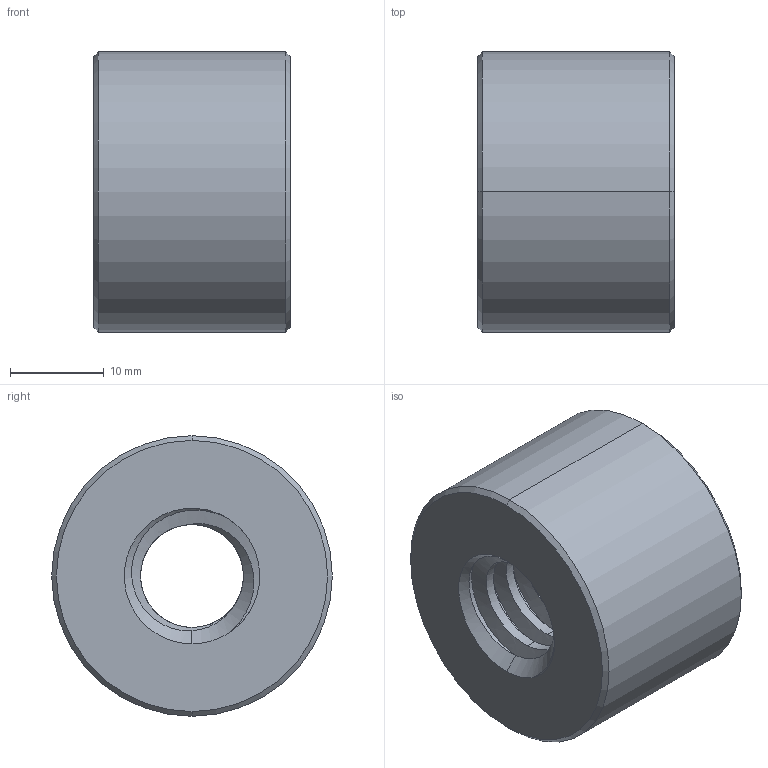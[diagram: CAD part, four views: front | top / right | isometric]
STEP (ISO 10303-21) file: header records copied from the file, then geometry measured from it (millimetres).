
FILE_DESCRIPTION((''),'2;1');
FILE_NAME('716-014-1100_PRT','2024-03-23T',('Brieden'),('ib-brieden'),'PRO/ENGINEER BY PARAMETRIC TECHNOLOGY CORPORATION, 2010160','PRO/ENGINEER BY PARAMETRIC TECHNOLOGY CORPORATION, 2010160','');
FILE_SCHEMA(('AUTOMOTIVE_DESIGN { 1 0 10303 214 1 1 1 1 }'));
Length unit declared in the file: millimetre
Products named in the file (1): 716-014-1100_PRT
Bounding box: 21 x 30 x 30 mm (x, y, z)
Volume: 12077.3 mm3; surface area: 4578.4 mm2
Topology: 1 solids, 1 shells, 33 faces, 81 edges, 50 vertices
Faces by surface type: cylinder 14, bspline 9, cone 8, plane 2
Entity records: 3232 total; most frequent: CARTESIAN_POINT 2488, ORIENTED_EDGE 162, DIRECTION 103, EDGE_CURVE 81, VERTEX_POINT 50, B_SPLINE_CURVE_WITH_KNOTS 41, AXIS2_PLACEMENT_3D 39, EDGE_LOOP 35
